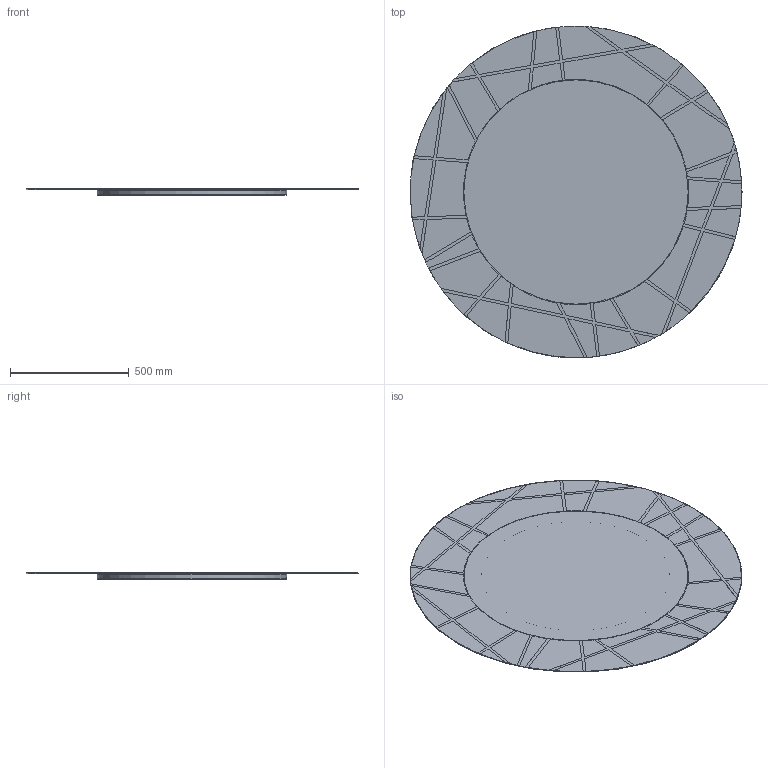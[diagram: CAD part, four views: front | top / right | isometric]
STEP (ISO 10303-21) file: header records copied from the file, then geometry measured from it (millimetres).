
FILE_DESCRIPTION((''),'2;1');
FILE_NAME('C:\AutodeskVault\AreaLavoro\Progetti\SoVeT Italia\3. Specchi_Mirrors\Segment\Web file\Segment Web\P5088.stp','2012-07-23T17:41:59',('Gianluca'),('So.Ve.T. s.r.l.'),'Autodesk Inventor 2013','Autodesk Inventor 2013','IL PROGETTO E'' DI ESCLUSIVA PROPRIETA'' DELLA SO.VE.T. srl. E'' VIETATA OGNI RIPRODUZIONE TOTALE O PARZIALE E QUALSIASI UTILIZZO NON AUTORIZZATO. ');
FILE_SCHEMA(('AUTOMOTIVE_DESIGN { 1 0 10303 214 1 1 1 1 }'));
Length unit declared in the file: millimetre
Products named in the file (1): P5088 Contorno semplificato
Bounding box: 1400 x 1400 x 28 mm (x, y, z)
Surface area: 3318592.3 mm2 (no closed solid volume)
Topology: 0 solids, 1 shells, 237 faces, 635 edges, 414 vertices
Faces by surface type: plane 195, cylinder 34, torus 6, bspline 2
Full cylindrical faces by diameter (mm): 784 x1, 798 x1, 800 x1, 945.903 x1, 1398 x1, 1400 x1
Entity records: 7963 total; most frequent: CARTESIAN_POINT 1848, ORIENTED_EDGE 1236, DIRECTION 1147, EDGE_CURVE 618, VECTOR 415, LINE 415, VERTEX_POINT 410, AXIS2_PLACEMENT_3D 366
